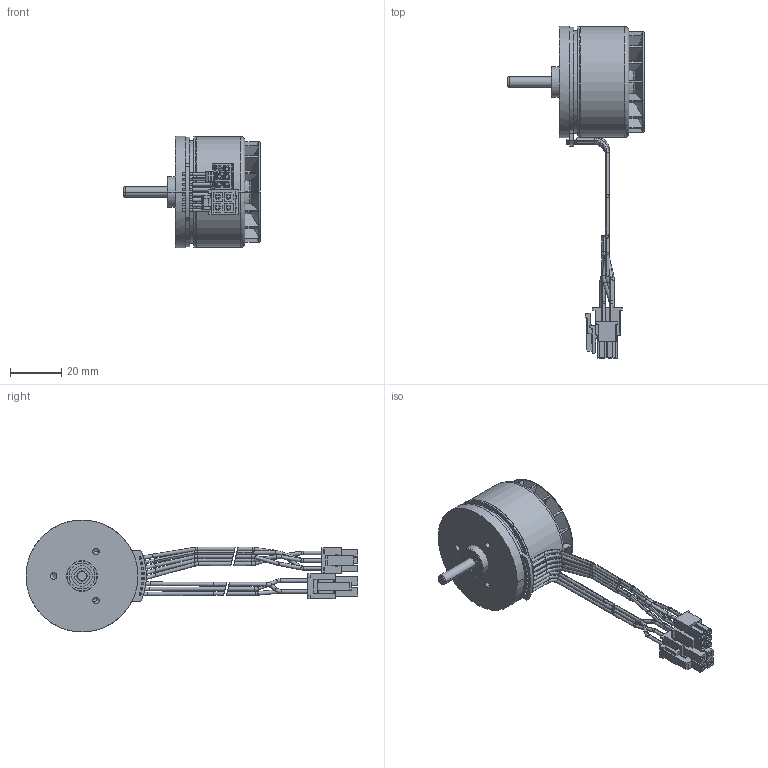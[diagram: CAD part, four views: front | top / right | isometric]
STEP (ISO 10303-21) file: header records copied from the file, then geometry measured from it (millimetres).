
FILE_DESCRIPTION((''),'2;1');
FILE_NAME('4590988','2020-04-20T',('MMAGVISI'),(''),'CREO PARAMETRIC BY PTC INC, 2017300','CREO PARAMETRIC BY PTC INC, 2017300','');
FILE_SCHEMA(('CONFIG_CONTROL_DESIGN'));
Length unit declared in the file: millimetre
Products named in the file (1): 4590988
Bounding box: 53 x 128.97 x 43.5 mm (x, y, z)
Volume: 43184.9 mm3; surface area: 17153.8 mm2
Topology: 12 solids, 12 shells, 837 faces, 2179 edges, 1377 vertices
Faces by surface type: plane 456, cylinder 255, torus 94, cone 28, revolution 4
Entity records: 33213 total; most frequent: CARTESIAN_POINT 5561, DIRECTION 4423, ORIENTED_EDGE 4346, PRESENTATION_STYLE_ASSIGNMENT 2185, STYLED_ITEM 2185, CURVE_STYLE 2173, EDGE_CURVE 2173, AXIS2_PLACEMENT_3D 1505
